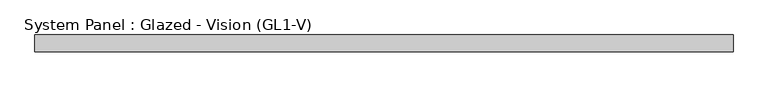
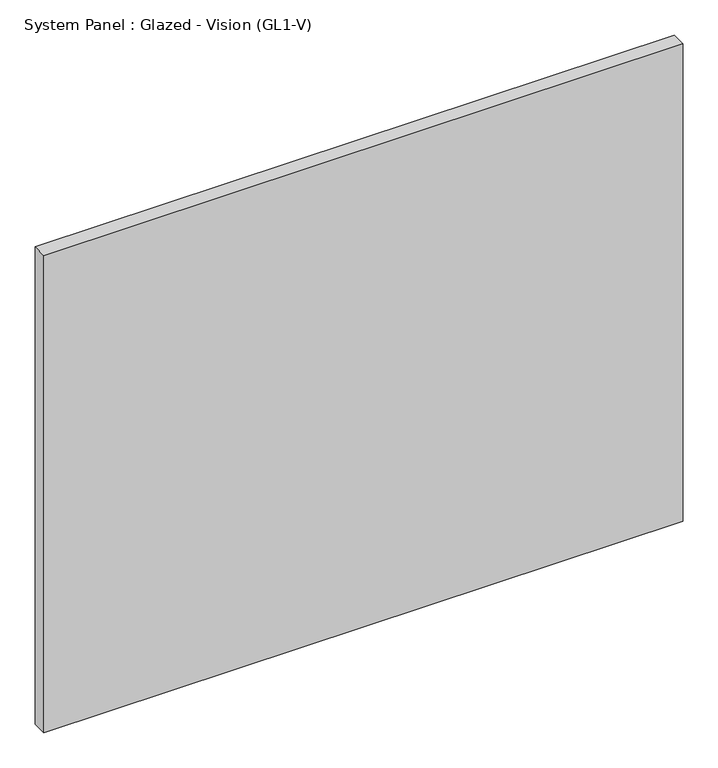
"""IFC4 building model written with IfcOpenShell, lengths in millimetres: plate geometry, System Panel : Glazed - Vision (GL1-V)."""

from ifc_helpers import new_model, si_unit, origin, origin_with_axes, place, context, project, spatial, polyline, outline, extrude, source, transform, mapped, element, save


def system_panel_glazed_vision_gl1_v_28bef618(model_context):
    return source(origin(), model_context, "Body", "SweptSolid", [
        extrude(outline(polyline([(527.05, -25.4), (-527.05, -25.4), (-527.05, 0.0), (527.05, 0.0), (527.05, -25.4)])), origin_with_axes(), (0.0, 0.0, 1.0), 831.85),
    ])


if __name__ == "__main__":
    model = new_model("IFC4")
    model_context = context("Model", 3, world=origin())
    ifc_project = project(units=[si_unit("LENGTHUNIT", "METRE", prefix="MILLI")], contexts=[model_context])
    site = spatial("IfcSite", under=ifc_project)
    building = spatial("IfcBuilding", under=site)
    placement = place(None, origin())
    system_panel_glazed_vision_gl1_v_shape = system_panel_glazed_vision_gl1_v_28bef618(model_context)
    element("IfcPlate", 1, ObjectType="System Panel : Glazed - Vision (GL1-V)", at=placement, inside=building, context=model_context, shape_type="MappedRepresentation", body=[
        mapped(system_panel_glazed_vision_gl1_v_shape, transform((0.0, 0.0, 0.0), x_axis=(1.0, 0.0, 0.0), y_axis=(0.0, 1.0, 0.0), z_axis=(0.0, 0.0, 1.0))),
    ])
    save(model, "model.ifc")
